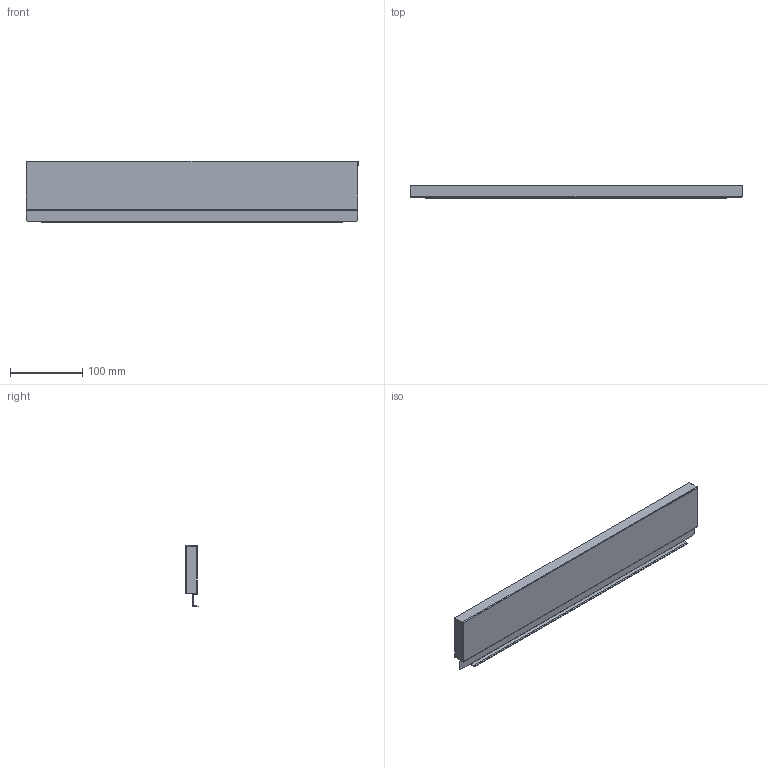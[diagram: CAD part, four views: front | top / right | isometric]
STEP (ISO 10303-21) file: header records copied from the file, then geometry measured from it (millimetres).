
FILE_DESCRIPTION (( 'STEP AP214' ), '1' );
FILE_NAME ('_STRW_H90_KAB_550.step', '2010-08-24T14:40:15', ( 'grass' ), ( '' ), 'SwSTEP 2.0', 'SolidWorks 2009', '' );
FILE_SCHEMA (( 'AUTOMOTIVE_DESIGN' ));
Length unit declared in the file: millimetre
Products named in the file (1): _STRW_H90_KAB_550
Bounding box: 460 x 17 x 85.14 mm (x, y, z)
Volume: 43013.2 mm3; surface area: 108526.8 mm2
Topology: 1 solids, 1 shells, 76 faces, 214 edges, 140 vertices
Faces by surface type: plane 54, cylinder 22
Entity records: 2472 total; most frequent: CARTESIAN_POINT 431, ORIENTED_EDGE 428, DIRECTION 412, EDGE_CURVE 214, LINE 170, VECTOR 170, VERTEX_POINT 140, AXIS2_PLACEMENT_3D 121
